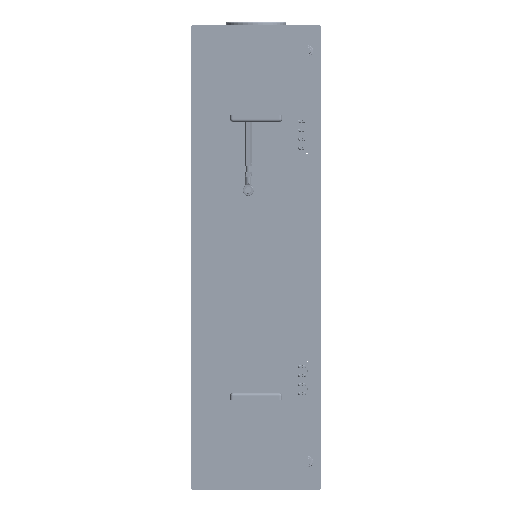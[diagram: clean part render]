
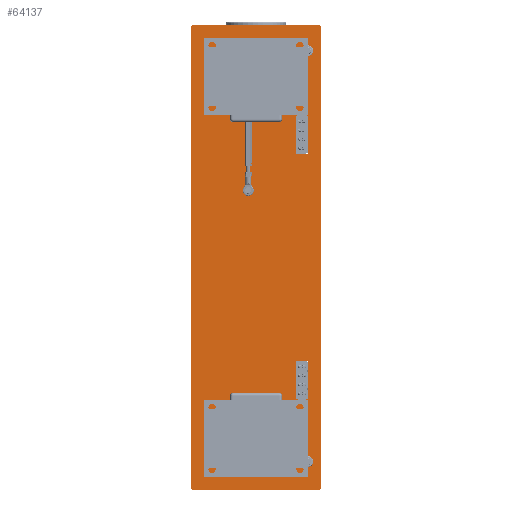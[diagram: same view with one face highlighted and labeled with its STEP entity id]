
A CAD part, front view. The second image highlights one B-rep face of the part: STEP entity #64137.
In plain terms, the highlighted planar face has unit normal (0, -1, 0).
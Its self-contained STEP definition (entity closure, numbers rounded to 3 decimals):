
#8069=LINE('',#94769,#12235);
#8070=LINE('',#94771,#12236);
#8071=LINE('',#94773,#12237);
#8072=LINE('',#94775,#12238);
#8073=LINE('',#94777,#12239);
#8074=LINE('',#94779,#12240);
#8075=LINE('',#94781,#12241);
#8076=LINE('',#94782,#12242);
#8077=LINE('',#94793,#12243);
#8078=LINE('',#94797,#12244);
#8079=LINE('',#94801,#12245);
#8080=LINE('',#94804,#12246);
#8081=LINE('',#94809,#12247);
#8082=LINE('',#94813,#12248);
#8083=LINE('',#94817,#12249);
#8084=LINE('',#94820,#12250);
#12235=VECTOR('',#75643,7.071);
#12236=VECTOR('',#75644,1790.);
#12237=VECTOR('',#75645,7.071);
#12238=VECTOR('',#75646,490.);
#12239=VECTOR('',#75647,7.071);
#12240=VECTOR('',#75648,1790.);
#12241=VECTOR('',#75649,7.071);
#12242=VECTOR('',#75650,490.);
#12243=VECTOR('',#75659,30.);
#12244=VECTOR('',#75662,130.);
#12245=VECTOR('',#75665,30.);
#12246=VECTOR('',#75668,130.);
#12247=VECTOR('',#75671,30.);
#12248=VECTOR('',#75674,130.);
#12249=VECTOR('',#75677,30.);
#12250=VECTOR('',#75680,130.);
#16363=PLANE('',#68035);
#18001=FACE_BOUND('',#23071,.T.);
#18002=FACE_BOUND('',#23072,.T.);
#18003=FACE_BOUND('',#23073,.T.);
#18004=FACE_BOUND('',#23074,.T.);
#18005=FACE_BOUND('',#23075,.T.);
#19311=FACE_OUTER_BOUND('',#23070,.T.);
#23070=EDGE_LOOP('',(#45869,#45870,#45871,#45872,#45873,#45874,#45875,#45876));
#23071=EDGE_LOOP('',(#45877));
#23072=EDGE_LOOP('',(#45878));
#23073=EDGE_LOOP('',(#45879));
#23074=EDGE_LOOP('',(#45880,#45881,#45882,#45883,#45884,#45885,#45886,#45887));
#23075=EDGE_LOOP('',(#45888,#45889,#45890,#45891,#45892,#45893,#45894,#45895));
#28139=CIRCLE('',#68036,6.918);
#28140=CIRCLE('',#68037,6.918);
#28141=CIRCLE('',#68038,6.918);
#28142=CIRCLE('',#68039,10.);
#28143=CIRCLE('',#68040,10.);
#28144=CIRCLE('',#68041,10.);
#28145=CIRCLE('',#68042,10.);
#28146=CIRCLE('',#68043,10.);
#28147=CIRCLE('',#68044,10.);
#28148=CIRCLE('',#68045,10.);
#28149=CIRCLE('',#68046,10.);
#31400=VERTEX_POINT('',#94767);
#31401=VERTEX_POINT('',#94768);
#31402=VERTEX_POINT('',#94770);
#31403=VERTEX_POINT('',#94772);
#31404=VERTEX_POINT('',#94774);
#31405=VERTEX_POINT('',#94776);
#31406=VERTEX_POINT('',#94778);
#31407=VERTEX_POINT('',#94780);
#31408=VERTEX_POINT('',#94783);
#31409=VERTEX_POINT('',#94785);
#31410=VERTEX_POINT('',#94787);
#31411=VERTEX_POINT('',#94789);
#31412=VERTEX_POINT('',#94790);
#31413=VERTEX_POINT('',#94792);
#31414=VERTEX_POINT('',#94794);
#31415=VERTEX_POINT('',#94796);
#31416=VERTEX_POINT('',#94798);
#31417=VERTEX_POINT('',#94800);
#31418=VERTEX_POINT('',#94802);
#31419=VERTEX_POINT('',#94805);
#31420=VERTEX_POINT('',#94806);
#31421=VERTEX_POINT('',#94808);
#31422=VERTEX_POINT('',#94810);
#31423=VERTEX_POINT('',#94812);
#31424=VERTEX_POINT('',#94814);
#31425=VERTEX_POINT('',#94816);
#31426=VERTEX_POINT('',#94818);
#37259=EDGE_CURVE('',#31400,#31401,#8069,.T.);
#37260=EDGE_CURVE('',#31400,#31402,#8070,.T.);
#37261=EDGE_CURVE('',#31403,#31402,#8071,.T.);
#37262=EDGE_CURVE('',#31403,#31404,#8072,.T.);
#37263=EDGE_CURVE('',#31405,#31404,#8073,.T.);
#37264=EDGE_CURVE('',#31406,#31405,#8074,.T.);
#37265=EDGE_CURVE('',#31407,#31406,#8075,.T.);
#37266=EDGE_CURVE('',#31407,#31401,#8076,.T.);
#37267=EDGE_CURVE('',#31408,#31408,#28139,.T.);
#37268=EDGE_CURVE('',#31409,#31409,#28140,.T.);
#37269=EDGE_CURVE('',#31410,#31410,#28141,.T.);
#37270=EDGE_CURVE('',#31411,#31412,#28142,.T.);
#37271=EDGE_CURVE('',#31412,#31413,#8077,.T.);
#37272=EDGE_CURVE('',#31413,#31414,#28143,.T.);
#37273=EDGE_CURVE('',#31414,#31415,#8078,.T.);
#37274=EDGE_CURVE('',#31415,#31416,#28144,.T.);
#37275=EDGE_CURVE('',#31416,#31417,#8079,.T.);
#37276=EDGE_CURVE('',#31417,#31418,#28145,.T.);
#37277=EDGE_CURVE('',#31418,#31411,#8080,.T.);
#37278=EDGE_CURVE('',#31419,#31420,#28146,.T.);
#37279=EDGE_CURVE('',#31420,#31421,#8081,.T.);
#37280=EDGE_CURVE('',#31421,#31422,#28147,.T.);
#37281=EDGE_CURVE('',#31422,#31423,#8082,.T.);
#37282=EDGE_CURVE('',#31423,#31424,#28148,.T.);
#37283=EDGE_CURVE('',#31424,#31425,#8083,.T.);
#37284=EDGE_CURVE('',#31425,#31426,#28149,.T.);
#37285=EDGE_CURVE('',#31426,#31419,#8084,.T.);
#45869=ORIENTED_EDGE('',*,*,#37259,.F.);
#45870=ORIENTED_EDGE('',*,*,#37260,.T.);
#45871=ORIENTED_EDGE('',*,*,#37261,.F.);
#45872=ORIENTED_EDGE('',*,*,#37262,.T.);
#45873=ORIENTED_EDGE('',*,*,#37263,.F.);
#45874=ORIENTED_EDGE('',*,*,#37264,.F.);
#45875=ORIENTED_EDGE('',*,*,#37265,.F.);
#45876=ORIENTED_EDGE('',*,*,#37266,.T.);
#45877=ORIENTED_EDGE('',*,*,#37267,.T.);
#45878=ORIENTED_EDGE('',*,*,#37268,.T.);
#45879=ORIENTED_EDGE('',*,*,#37269,.T.);
#45880=ORIENTED_EDGE('',*,*,#37270,.T.);
#45881=ORIENTED_EDGE('',*,*,#37271,.T.);
#45882=ORIENTED_EDGE('',*,*,#37272,.T.);
#45883=ORIENTED_EDGE('',*,*,#37273,.T.);
#45884=ORIENTED_EDGE('',*,*,#37274,.T.);
#45885=ORIENTED_EDGE('',*,*,#37275,.T.);
#45886=ORIENTED_EDGE('',*,*,#37276,.T.);
#45887=ORIENTED_EDGE('',*,*,#37277,.T.);
#45888=ORIENTED_EDGE('',*,*,#37278,.T.);
#45889=ORIENTED_EDGE('',*,*,#37279,.T.);
#45890=ORIENTED_EDGE('',*,*,#37280,.T.);
#45891=ORIENTED_EDGE('',*,*,#37281,.T.);
#45892=ORIENTED_EDGE('',*,*,#37282,.T.);
#45893=ORIENTED_EDGE('',*,*,#37283,.T.);
#45894=ORIENTED_EDGE('',*,*,#37284,.T.);
#45895=ORIENTED_EDGE('',*,*,#37285,.T.);
#64137=ADVANCED_FACE('',(#19311,#18001,#18002,#18003,#18004,#18005),#16363,
 .T.);
#68035=AXIS2_PLACEMENT_3D('',#94766,#75641,#75642);
#68036=AXIS2_PLACEMENT_3D('',#94784,#75651,#75652);
#68037=AXIS2_PLACEMENT_3D('',#94786,#75653,#75654);
#68038=AXIS2_PLACEMENT_3D('',#94788,#75655,#75656);
#68039=AXIS2_PLACEMENT_3D('',#94791,#75657,#75658);
#68040=AXIS2_PLACEMENT_3D('',#94795,#75660,#75661);
#68041=AXIS2_PLACEMENT_3D('',#94799,#75663,#75664);
#68042=AXIS2_PLACEMENT_3D('',#94803,#75666,#75667);
#68043=AXIS2_PLACEMENT_3D('',#94807,#75669,#75670);
#68044=AXIS2_PLACEMENT_3D('',#94811,#75672,#75673);
#68045=AXIS2_PLACEMENT_3D('',#94815,#75675,#75676);
#68046=AXIS2_PLACEMENT_3D('',#94819,#75678,#75679);
#75641=DIRECTION('center_axis',(0.,-1.,0.));
#75642=DIRECTION('ref_axis',(0.,0.,-1.));
#75643=DIRECTION('',(0.707,0.,0.707));
#75644=DIRECTION('',(0.,0.,-1.));
#75645=DIRECTION('',(-0.707,0.,0.707));
#75646=DIRECTION('',(1.,0.,0.));
#75647=DIRECTION('',(-0.707,0.,-0.707));
#75648=DIRECTION('',(0.,0.,-1.));
#75649=DIRECTION('',(0.707,0.,-0.707));
#75650=DIRECTION('',(-1.,0.,0.));
#75651=DIRECTION('center_axis',(0.,1.,0.));
#75652=DIRECTION('ref_axis',(1.,0.,0.));
#75653=DIRECTION('center_axis',(0.,1.,0.));
#75654=DIRECTION('ref_axis',(1.,0.,0.));
#75655=DIRECTION('center_axis',(0.,1.,0.));
#75656=DIRECTION('ref_axis',(1.,0.,0.));
#75657=DIRECTION('center_axis',(0.,1.,0.));
#75658=DIRECTION('ref_axis',(-1.,0.,0.));
#75659=DIRECTION('',(1.,0.,0.));
#75660=DIRECTION('center_axis',(0.,1.,0.));
#75661=DIRECTION('ref_axis',(0.,0.,1.));
#75662=DIRECTION('',(0.,0.,-1.));
#75663=DIRECTION('center_axis',(0.,1.,0.));
#75664=DIRECTION('ref_axis',(1.,0.,0.));
#75665=DIRECTION('',(-1.,0.,0.));
#75666=DIRECTION('center_axis',(0.,1.,0.));
#75667=DIRECTION('ref_axis',(0.,0.,-1.));
#75668=DIRECTION('',(0.,0.,1.));
#75669=DIRECTION('center_axis',(0.,1.,0.));
#75670=DIRECTION('ref_axis',(1.,0.,0.));
#75671=DIRECTION('',(1.,0.,0.));
#75672=DIRECTION('center_axis',(0.,1.,0.));
#75673=DIRECTION('ref_axis',(0.,0.,-1.));
#75674=DIRECTION('',(0.,0.,-1.));
#75675=DIRECTION('center_axis',(0.,1.,0.));
#75676=DIRECTION('ref_axis',(-1.,0.,0.));
#75677=DIRECTION('',(-1.,0.,0.));
#75678=DIRECTION('center_axis',(0.,1.,0.));
#75679=DIRECTION('ref_axis',(0.,0.,1.));
#75680=DIRECTION('',(0.,0.,1.));
#94766=CARTESIAN_POINT('Origin',(250.,-170.,0.));
#94767=CARTESIAN_POINT('',(-250.,-170.,895.));
#94768=CARTESIAN_POINT('',(-245.,-170.,900.));
#94769=CARTESIAN_POINT('',(-347.5,-170.,797.5));
#94770=CARTESIAN_POINT('',(-250.,-170.,-895.));
#94771=CARTESIAN_POINT('',(-250.,-170.,0.));
#94772=CARTESIAN_POINT('',(-245.,-170.,-900.));
#94773=CARTESIAN_POINT('',(-347.5,-170.,-797.5));
#94774=CARTESIAN_POINT('',(245.,-170.,-900.));
#94775=CARTESIAN_POINT('',(250.,-170.,-900.));
#94776=CARTESIAN_POINT('',(250.,-170.,-895.));
#94777=CARTESIAN_POINT('',(472.5,-170.,-672.5));
#94778=CARTESIAN_POINT('',(250.,-170.,895.));
#94779=CARTESIAN_POINT('',(250.,-170.,0.));
#94780=CARTESIAN_POINT('',(245.,-170.,900.));
#94781=CARTESIAN_POINT('',(472.5,-170.,672.5));
#94782=CARTESIAN_POINT('',(250.,-170.,900.));
#94783=CARTESIAN_POINT('',(206.918,-170.,-790.));
#94784=CARTESIAN_POINT('Origin',(200.,-170.,-790.));
#94785=CARTESIAN_POINT('',(206.918,-170.,800.));
#94786=CARTESIAN_POINT('Origin',(200.,-170.,800.));
#94787=CARTESIAN_POINT('',(-23.082,-170.,260.));
#94788=CARTESIAN_POINT('Origin',(-30.,-170.,260.));
#94789=CARTESIAN_POINT('',(153.,-170.,-410.));
#94790=CARTESIAN_POINT('',(163.,-170.,-400.));
#94791=CARTESIAN_POINT('Origin',(163.,-170.,-410.));
#94792=CARTESIAN_POINT('',(193.,-170.,-400.));
#94793=CARTESIAN_POINT('',(221.5,-170.,-400.));
#94794=CARTESIAN_POINT('',(203.,-170.,-410.));
#94795=CARTESIAN_POINT('Origin',(193.,-170.,-410.));
#94796=CARTESIAN_POINT('',(203.,-170.,-540.));
#94797=CARTESIAN_POINT('',(203.,-170.,-270.));
#94798=CARTESIAN_POINT('',(193.,-170.,-550.));
#94799=CARTESIAN_POINT('Origin',(193.,-170.,-540.));
#94800=CARTESIAN_POINT('',(163.,-170.,-550.));
#94801=CARTESIAN_POINT('',(206.5,-170.,-550.));
#94802=CARTESIAN_POINT('',(153.,-170.,-540.));
#94803=CARTESIAN_POINT('Origin',(163.,-170.,-540.));
#94804=CARTESIAN_POINT('',(153.,-170.,-205.));
#94805=CARTESIAN_POINT('',(153.,-170.,540.));
#94806=CARTESIAN_POINT('',(163.,-170.,550.));
#94807=CARTESIAN_POINT('Origin',(163.,-170.,540.));
#94808=CARTESIAN_POINT('',(193.,-170.,550.));
#94809=CARTESIAN_POINT('',(221.5,-170.,550.));
#94810=CARTESIAN_POINT('',(203.,-170.,540.));
#94811=CARTESIAN_POINT('Origin',(193.,-170.,540.));
#94812=CARTESIAN_POINT('',(203.,-170.,410.));
#94813=CARTESIAN_POINT('',(203.,-170.,205.));
#94814=CARTESIAN_POINT('',(193.,-170.,400.));
#94815=CARTESIAN_POINT('Origin',(193.,-170.,410.));
#94816=CARTESIAN_POINT('',(163.,-170.,400.));
#94817=CARTESIAN_POINT('',(206.5,-170.,400.));
#94818=CARTESIAN_POINT('',(153.,-170.,410.));
#94819=CARTESIAN_POINT('Origin',(163.,-170.,410.));
#94820=CARTESIAN_POINT('',(153.,-170.,270.));
